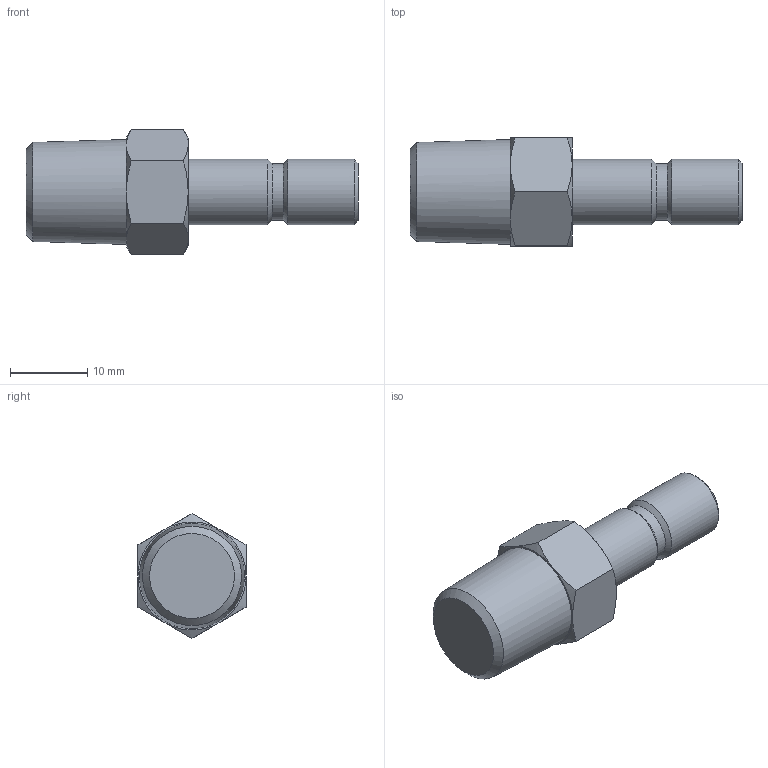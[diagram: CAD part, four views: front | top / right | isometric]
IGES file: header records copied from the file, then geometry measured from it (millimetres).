
Global section: file name: [05] H-20P (R1／4),2; native system: 2HAutodesk Inventor 2014; preprocessor: unknown; author: kazuhiro.t; date: 20130805.152140; units: millimetre
Bounding box: 43 x 14 x 16.17 mm (x, y, z)
Volume: 4318.3 mm3; surface area: 1794.4 mm2
Topology: 1 solids, 1 shells, 30 faces, 61 edges, 35 vertices
Faces by surface type: bspline 30
